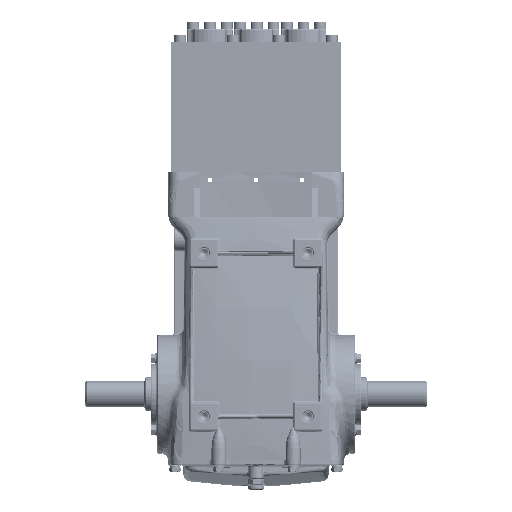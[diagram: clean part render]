
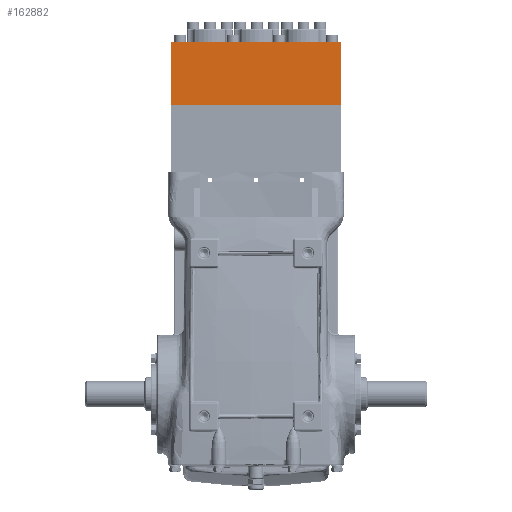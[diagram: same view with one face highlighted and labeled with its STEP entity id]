
A CAD part, front view. The second image highlights one B-rep face of the part: STEP entity #162882.
In plain terms, the highlighted planar face has unit normal (0, -1, 0).
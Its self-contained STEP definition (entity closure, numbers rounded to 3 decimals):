
#3346 = VERTEX_POINT ( 'NONE', #152996 ) ;
#3347 = VERTEX_POINT ( 'NONE', #152997 ) ;
#25324 = EDGE_CURVE ( 'NONE', #171541, #169041, #194769, .T. ) ;
#86913 = CARTESIAN_POINT ( 'NONE',  ( 115., -92., 389. ) ) ;
#89995 = CARTESIAN_POINT ( 'NONE',  ( -115., -92., 389. ) ) ;
#105081 = FACE_OUTER_BOUND ( 'NONE', #238866, .T. ) ;
#105136 = AXIS2_PLACEMENT_3D ( 'NONE', #153846, #153848, #153849 ) ;
#152996 = CARTESIAN_POINT ( 'NONE',  ( -115., -92., 474. ) ) ;
#152997 = CARTESIAN_POINT ( 'NONE',  ( 115., -92., 474. ) ) ;
#153813 = PLANE ( 'NONE',  #105136 ) ;
#153846 = CARTESIAN_POINT ( 'NONE',  ( -115., -92., 474. ) ) ;
#153848 = DIRECTION ( 'NONE',  ( 0., 1., 0. ) ) ;
#153849 = DIRECTION ( 'NONE',  ( 0., 0., 1. ) ) ;
#162882 = ADVANCED_FACE ( 'NONE', ( #105081 ), #153813, .F. ) ;
#169041 = VERTEX_POINT ( 'NONE', #86913 ) ;
#171541 = VERTEX_POINT ( 'NONE', #89995 ) ;
#179119 = VECTOR ( 'NONE', #182107, 1000. ) ;
#179123 = VECTOR ( 'NONE', #182112, 1000. ) ;
#179127 = VECTOR ( 'NONE', #182118, 1000. ) ;
#182103 = LINE ( 'NONE', #182105, #179119 ) ;
#182105 = CARTESIAN_POINT ( 'NONE',  ( 115., -92., 474. ) ) ;
#182107 = DIRECTION ( 'NONE',  ( 0., 0., -1. ) ) ;
#182109 = LINE ( 'NONE', #182110, #179123 ) ;
#182110 = CARTESIAN_POINT ( 'NONE',  ( -115., -92., 474. ) ) ;
#182112 = DIRECTION ( 'NONE',  ( 1., 0., 0. ) ) ;
#182114 = LINE ( 'NONE', #182116, #179127 ) ;
#182116 = CARTESIAN_POINT ( 'NONE',  ( -115., -92., 474. ) ) ;
#182118 = DIRECTION ( 'NONE',  ( 0., 0., -1. ) ) ;
#194769 = LINE ( 'NONE', #194772, #195444 ) ;
#194772 = CARTESIAN_POINT ( 'NONE',  ( -115., -92., 389. ) ) ;
#194775 = DIRECTION ( 'NONE',  ( 1., 0., 0. ) ) ;
#195444 = VECTOR ( 'NONE', #194775, 1000. ) ;
#213167 = ORIENTED_EDGE ( 'NONE', *, *, #25324, .T. ) ;
#213168 = ORIENTED_EDGE ( 'NONE', *, *, #215406, .F. ) ;
#213171 = ORIENTED_EDGE ( 'NONE', *, *, #215404, .F. ) ;
#213172 = ORIENTED_EDGE ( 'NONE', *, *, #215407, .T. ) ;
#215404 = EDGE_CURVE ( 'NONE', #3347, #169041, #182103, .T. ) ;
#215406 = EDGE_CURVE ( 'NONE', #3346, #3347, #182109, .T. ) ;
#215407 = EDGE_CURVE ( 'NONE', #3346, #171541, #182114, .T. ) ;
#238866 = EDGE_LOOP ( 'NONE', ( #213167, #213171, #213168, #213172 ) ) ;
